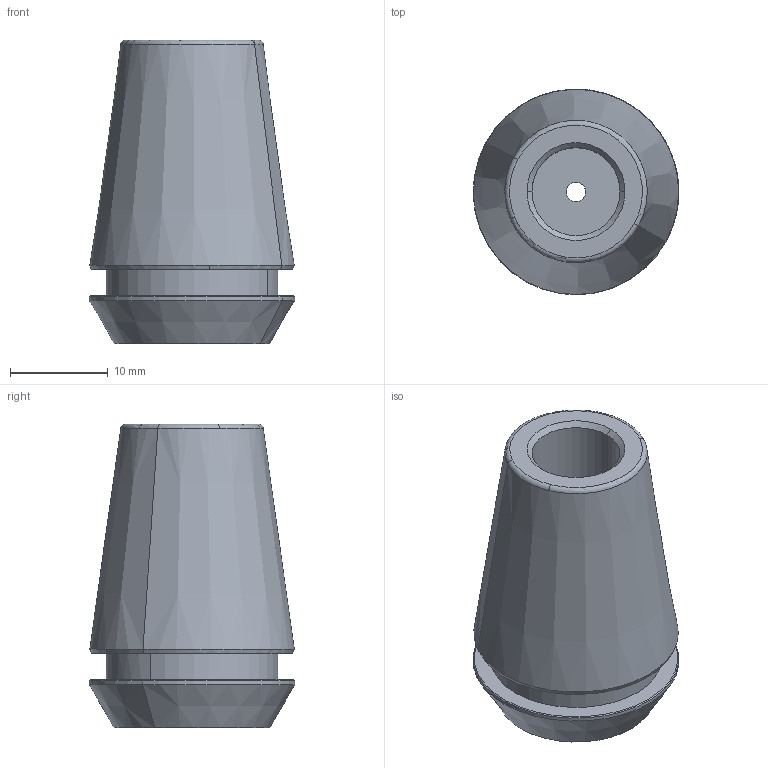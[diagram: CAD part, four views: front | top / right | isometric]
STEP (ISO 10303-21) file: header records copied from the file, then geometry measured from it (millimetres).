
FILE_DESCRIPTION(('CATIA V5 STEP','CAx-IF Rec.Pracs.--- Model Styling and Organization---1.2---2011-12-15'),'2;1');
FILE_NAME('\\nas01\drv1\utils\eitdev\rte\eit\transmagicconvert\db\out\635858554055359875\4511397 M.stp','2015-12-16T07:36:57+00:00',('none'),('none'),'CATIA Version 5 Release 21 SP 5 (IN-10)','CATIA V5 STEP AP214','none');
FILE_SCHEMA(('AUTOMOTIVE_DESIGN { 1 0 10303 214 1 1 1 1 }'));
Length unit declared in the file: millimetre
Products named in the file (1): ER20 SPR 1-2 AA
Bounding box: 20.99 x 20.99 x 31 mm (x, y, z)
Volume: 6820.1 mm3; surface area: 2849.3 mm2
Topology: 1 solids, 1 shells, 31 faces, 66 edges, 40 vertices
Faces by surface type: cone 15, cylinder 8, plane 5, torus 3
Entity records: 1017 total; most frequent: CARTESIAN_POINT 307, ORIENTED_EDGE 132, DIRECTION 121, AXIS2_PLACEMENT_3D 67, EDGE_CURVE 66, VERTEX_POINT 40, EDGE_LOOP 36, CIRCLE 33
